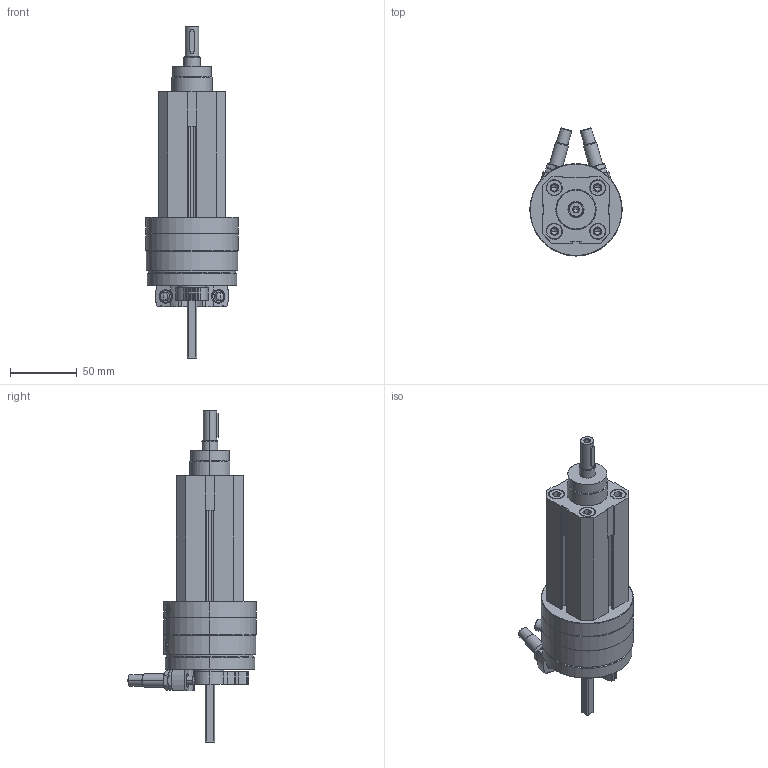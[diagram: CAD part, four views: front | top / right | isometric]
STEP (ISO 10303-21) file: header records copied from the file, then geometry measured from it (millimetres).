
FILE_DESCRIPTION(('CATIA V5 STEP'),'2;1');
FILE_NAME('F:\556427_DSL-20-25-270-CC-A-S2-B.stp','2015-01-19T14:32:36+00:00',('McH'),('none'),'CATIA Version 5 Release 21 SP 2 (IN-10)','CATIA V5 STEP AP214 Edition 3','none');
FILE_SCHEMA(('AUTOMOTIVE_DESIGN { 1 0 10303 214 3 1 1 1 }'));
Length unit declared in the file: millimetre
Products named in the file (1): Noname
Bounding box: 69 x 95.73 x 248 mm (x, y, z)
Surface area: 78959.2 mm2 (no closed solid volume)
Topology: 0 solids, 561 shells, 717 faces, 3163 edges, 2846 vertices
Faces by surface type: extrusion 294, cylinder 247, revolution 176
Entity records: 40683 total; most frequent: CARTESIAN_POINT 13340, ORIENTED_EDGE 3444, DIRECTION 3235, EDGE_CURVE 3139, VERTEX_POINT 2846, VECTOR 1743, LINE 1449, B_SPLINE_CURVE_WITH_KNOTS 1338
